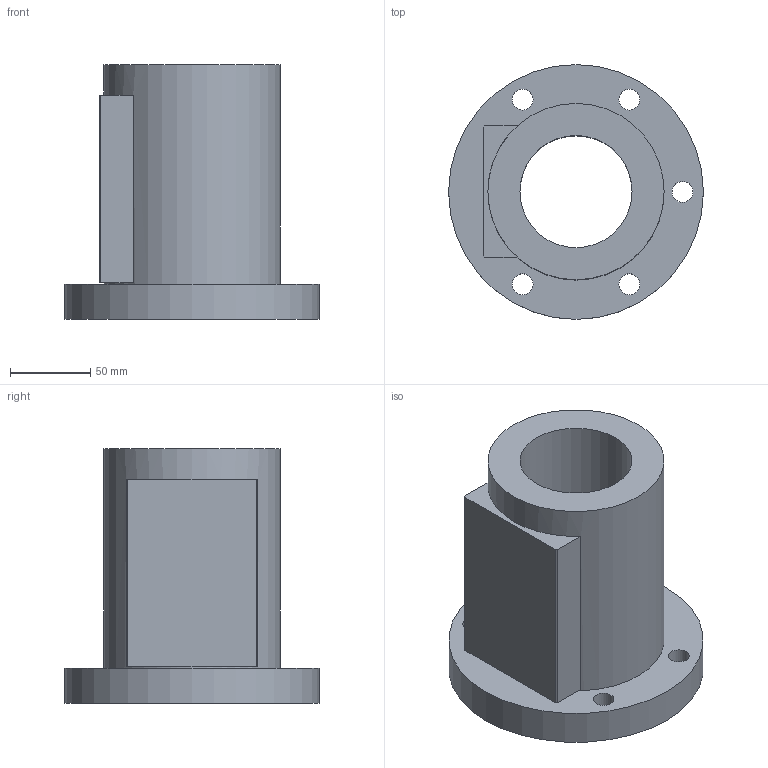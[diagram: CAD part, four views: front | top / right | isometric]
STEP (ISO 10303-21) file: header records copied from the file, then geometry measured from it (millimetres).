
FILE_DESCRIPTION(/* description */ (''),/* implementation_level */ '2;1');
FILE_NAME(/* name */ '70-12B3',/* time_stamp */ '2006-07-31T13:06:36+08:00',/* author */ (''),/* organization */ (''),/* preprocessor_version */ 'ST-DEVELOPER v9',/* originating_system */ 'UGS - NX 4.0',/* authorisation */ '');
FILE_SCHEMA (('CONFIG_CONTROL_DESIGN'));
Length unit declared in the file: millimetre
Products named in the file (1): 70-12B3
Bounding box: 159 x 159 x 159 mm (x, y, z)
Volume: 1183228.4 mm3; surface area: 134946.4 mm2
Topology: 1 solids, 1 shells, 28 faces, 61 edges, 42 vertices
Faces by surface type: plane 15, cylinder 13
Full cylindrical faces by diameter (mm): 13 x5, 20 x5, 70 x1, 110 x1, 159 x1
Entity records: 794 total; most frequent: DIRECTION 130, CARTESIAN_POINT 111, ORIENTED_EDGE 88, EDGE_LOOP 60, AXIS2_PLACEMENT_3D 57, FACE_BOUND 45, EDGE_CURVE 44, VERTEX_POINT 38
